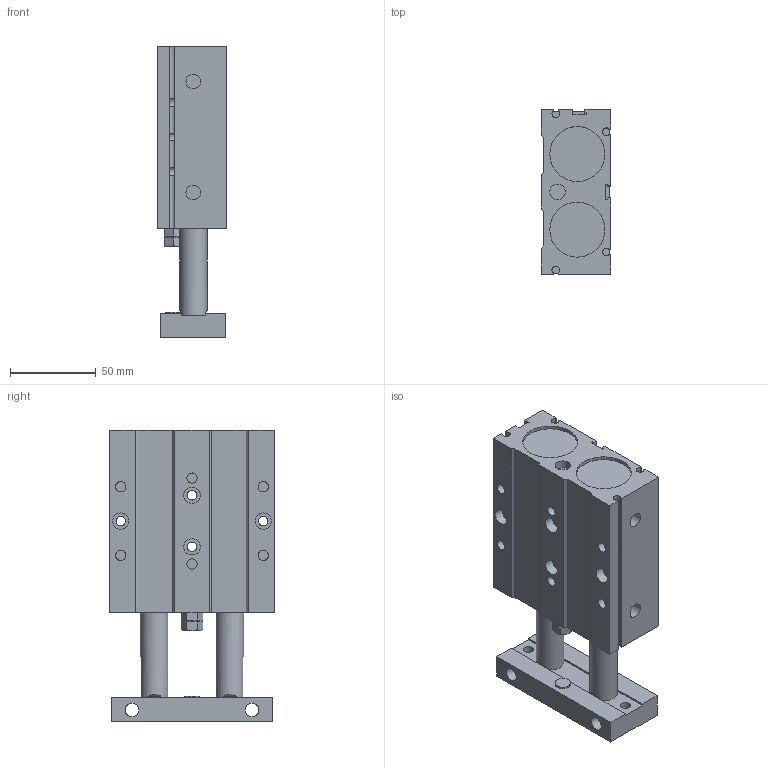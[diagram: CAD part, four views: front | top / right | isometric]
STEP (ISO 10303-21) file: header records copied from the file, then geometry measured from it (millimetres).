
FILE_DESCRIPTION((''),'2;1');
FILE_NAME('I:\3D電子目錄\氣缸\TD\TD32\TD32\TD32x40.stp','2007-08-06T10:18:14',('Administrator'),(''),'Autodesk Inventor 2008','Autodesk Inventor 2008','');
FILE_SCHEMA(('AUTOMOTIVE_DESIGN { 1 0 10303 214 1 1 1 1 }'));
Length unit declared in the file: millimetre
Products named in the file (1): TD32X40
Bounding box: 40.5 x 96 x 170 mm (x, y, z)
Volume: 441491.8 mm3; surface area: 67787.3 mm2
Topology: 1 solids, 3 shells, 186 faces, 458 edges, 304 vertices
Faces by surface type: plane 131, cylinder 42, cone 7, bspline 4, torus 2
Full cylindrical faces by diameter (mm): 5.5 x4, 6 x8, 8 x2, 8.5 x2, 9 x2, 9.5 x8, 12 x2, 13 x2, 14 x2, 16 x2, 32 x4
Entity records: 6063 total; most frequent: CARTESIAN_POINT 1776, DIRECTION 851, ORIENTED_EDGE 802, EDGE_CURVE 401, EDGE_LOOP 297, AXIS2_PLACEMENT_3D 295, VERTEX_POINT 294, VECTOR 261
